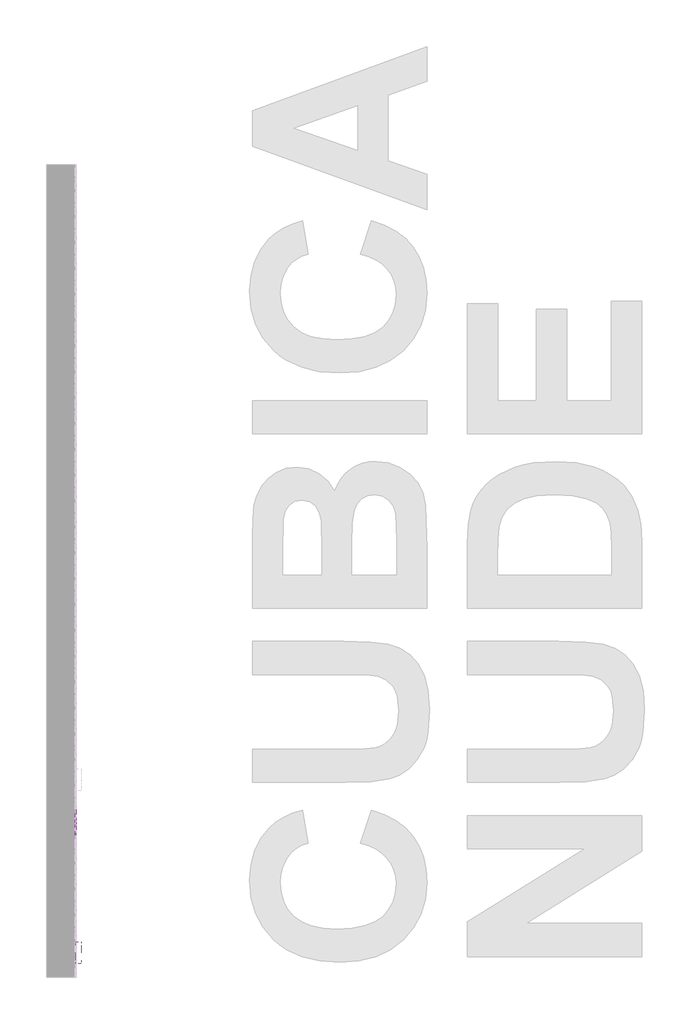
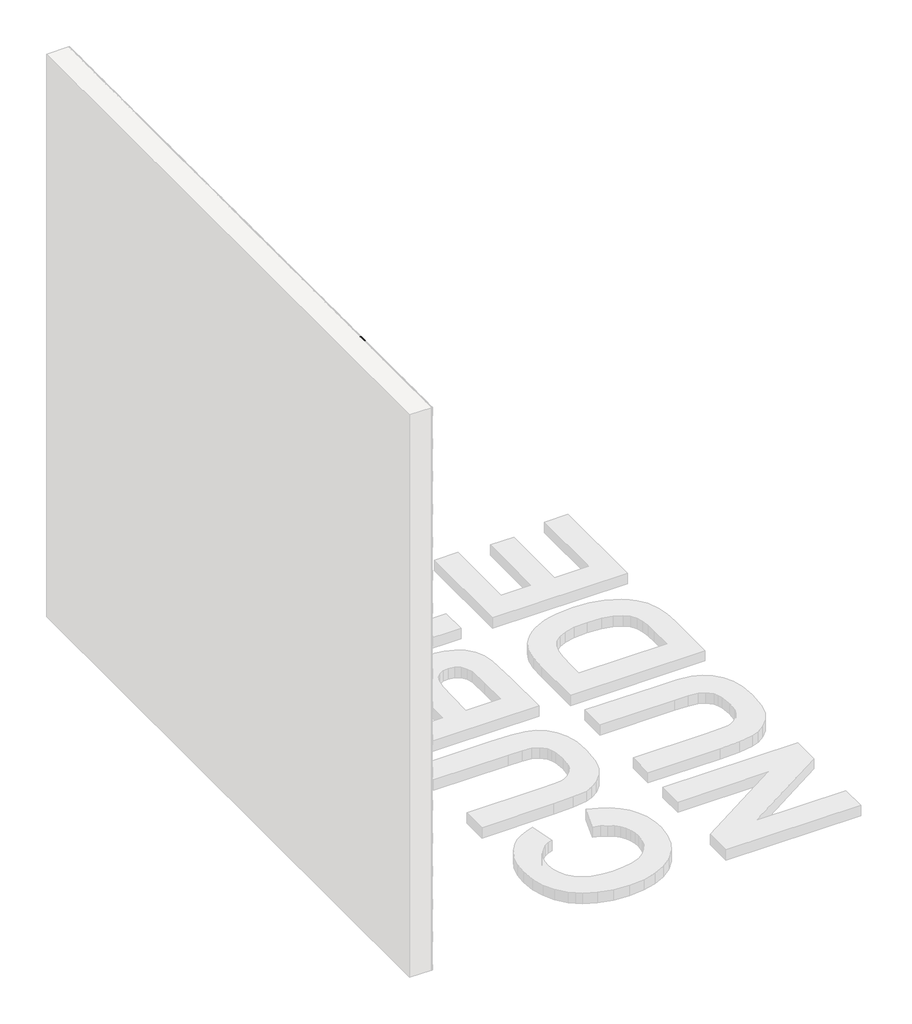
# One storey, part 54 of 121: 134 proxies.
"""IFC4 building model written with IfcOpenShell, lengths in millimetres."""

from ifc_helpers import new_model, si_unit, frame, origin, place, context, project, spatial, polyline, outline, extrude, transform, mapped, element, save
from components import generic_models_b2b2c5c1, generic_models_9bf73f6f, generic_models_5d175859, generic_models_95f85f1d, generic_models_b652511d

model = new_model("IFC4")

# Units and contexts
model_context = context("Model", 3, world=origin())
ifc_project = project(units=[si_unit("LENGTHUNIT", "METRE", prefix="MILLI")], contexts=[model_context])

# Site, building, storey
site = spatial("IfcSite", under=ifc_project)
building = spatial("IfcBuilding", under=site)
storey = spatial("IfcBuildingStorey", under=building, Name="PORTOBELLO - SHOWROOM", Elevation=0.0)

# Proxies
placement = place(None, origin())
generic_models_shape = generic_models_b2b2c5c1(model_context)
element("IfcBuildingElementProxy", 1, Name="PBSHOP - CUBICA NUDE 4,8X8,3 : CUBICA NUDE - POSIÇÃO 01", ObjectType="PBSHOP - CUBICA NUDE 4,8X8,3 : CUBICA NUDE - POSIÇÃO 01", at=placement, inside=storey, context=model_context, shape_type="MappedRepresentation", body=[
    mapped(generic_models_shape, transform((150369.5341846, 7032.4226303, 39.4221668), x_axis=(0.0, 1.0, 0.0), y_axis=(0.0, 0.0, 1.0), z_axis=(1.0, 0.0, 0.0))),
])
element("IfcBuildingElementProxy", 2, Name="PBSHOP - CUBICA NUDE 4,8X8,3 : CUBICA NUDE - POSIÇÃO 01", ObjectType="PBSHOP - CUBICA NUDE 4,8X8,3 : CUBICA NUDE - POSIÇÃO 01", at=placement, inside=storey, context=model_context, shape_type="MappedRepresentation", body=[
    mapped(generic_models_shape, transform((150369.5341846, 7123.2618995, 39.4221668), x_axis=(0.0, 1.0, 0.0), y_axis=(0.0, 0.0, 1.0), z_axis=(1.0, 0.0, 0.0))),
])
element("IfcBuildingElementProxy", 3, Name="PBSHOP - CUBICA NUDE 4,8X8,3 : CUBICA NUDE - POSIÇÃO 01", ObjectType="PBSHOP - CUBICA NUDE 4,8X8,3 : CUBICA NUDE - POSIÇÃO 01", at=placement, inside=storey, context=model_context, shape_type="MappedRepresentation", body=[
    mapped(generic_models_shape, transform((150369.5341846, 7214.1011688, 39.4221668), x_axis=(0.0, 1.0, 0.0), y_axis=(0.0, 0.0, 1.0), z_axis=(1.0, 0.0, 0.0))),
])
element("IfcBuildingElementProxy", 4, Name="PBSHOP - CUBICA NUDE 4,8X8,3 : CUBICA NUDE - POSIÇÃO 01", ObjectType="PBSHOP - CUBICA NUDE 4,8X8,3 : CUBICA NUDE - POSIÇÃO 01", at=placement, inside=storey, context=model_context, shape_type="MappedRepresentation", body=[
    mapped(generic_models_shape, transform((150369.5341846, 7304.940438, 39.4221668), x_axis=(0.0, 1.0, 0.0), y_axis=(0.0, 0.0, 1.0), z_axis=(1.0, 0.0, 0.0))),
])
element("IfcBuildingElementProxy", 5, Name="PBSHOP - CUBICA NUDE 4,8X8,3 : CUBICA NUDE - POSIÇÃO 01", ObjectType="PBSHOP - CUBICA NUDE 4,8X8,3 : CUBICA NUDE - POSIÇÃO 01", at=placement, inside=storey, context=model_context, shape_type="MappedRepresentation", body=[
    mapped(generic_models_shape, transform((150369.5341846, 7395.7797073, 39.4221668), x_axis=(0.0, 1.0, 0.0), y_axis=(0.0, 0.0, 1.0), z_axis=(1.0, 0.0, 0.0))),
])
element("IfcBuildingElementProxy", 6, Name="PBSHOP - CUBICA NUDE 4,8X8,3 : CUBICA NUDE - POSIÇÃO 01", ObjectType="PBSHOP - CUBICA NUDE 4,8X8,3 : CUBICA NUDE - POSIÇÃO 01", at=placement, inside=storey, context=model_context, shape_type="MappedRepresentation", body=[
    mapped(generic_models_shape, transform((150369.5341846, 7486.6189765, 39.4221668), x_axis=(0.0, 1.0, 0.0), y_axis=(0.0, 0.0, 1.0), z_axis=(1.0, 0.0, 0.0))),
])
element("IfcBuildingElementProxy", 7, Name="PBSHOP - CUBICA NUDE 4,8X8,3 : CUBICA NUDE - POSIÇÃO 01", ObjectType="PBSHOP - CUBICA NUDE 4,8X8,3 : CUBICA NUDE - POSIÇÃO 01", at=placement, inside=storey, context=model_context, shape_type="MappedRepresentation", body=[
    mapped(generic_models_shape, transform((150369.5341846, 7577.4582457, 39.4221668), x_axis=(0.0, 1.0, 0.0), y_axis=(0.0, 0.0, 1.0), z_axis=(1.0, 0.0, 0.0))),
])
element("IfcBuildingElementProxy", 8, Name="PBSHOP - CUBICA NUDE 4,8X8,3 : CUBICA NUDE - POSIÇÃO 01", ObjectType="PBSHOP - CUBICA NUDE 4,8X8,3 : CUBICA NUDE - POSIÇÃO 01", at=placement, inside=storey, context=model_context, shape_type="MappedRepresentation", body=[
    mapped(generic_models_shape, transform((150369.5341846, 7668.297515, 39.4221668), x_axis=(0.0, 1.0, 0.0), y_axis=(0.0, 0.0, 1.0), z_axis=(1.0, 0.0, 0.0))),
])
element("IfcBuildingElementProxy", 9, Name="PBSHOP - CUBICA NUDE 4,8X8,3 : CUBICA NUDE - POSIÇÃO 01", ObjectType="PBSHOP - CUBICA NUDE 4,8X8,3 : CUBICA NUDE - POSIÇÃO 01", at=placement, inside=storey, context=model_context, shape_type="MappedRepresentation", body=[
    mapped(generic_models_shape, transform((150369.5341846, 7759.1367842, 39.4221668), x_axis=(0.0, 1.0, 0.0), y_axis=(0.0, 0.0, 1.0), z_axis=(1.0, 0.0, 0.0))),
])
element("IfcBuildingElementProxy", 10, Name="PBSHOP - CUBICA NUDE 4,8X8,3 : CUBICA NUDE - POSIÇÃO 01", ObjectType="PBSHOP - CUBICA NUDE 4,8X8,3 : CUBICA NUDE - POSIÇÃO 01", at=placement, inside=storey, context=model_context, shape_type="MappedRepresentation", body=[
    mapped(generic_models_shape, transform((150369.5341846, 7849.9760535, 39.4221668), x_axis=(0.0, 1.0, 0.0), y_axis=(0.0, 0.0, 1.0), z_axis=(1.0, 0.0, 0.0))),
])
element("IfcBuildingElementProxy", 11, Name="PBSHOP - CUBICA NUDE 4,8X8,3 : CUBICA NUDE - POSIÇÃO 01", ObjectType="PBSHOP - CUBICA NUDE 4,8X8,3 : CUBICA NUDE - POSIÇÃO 01", at=placement, inside=storey, context=model_context, shape_type="MappedRepresentation", body=[
    mapped(generic_models_shape, transform((150369.5341846, 7940.8153227, 39.4221668), x_axis=(0.0, 1.0, 0.0), y_axis=(0.0, 0.0, 1.0), z_axis=(1.0, 0.0, 0.0))),
])
element("IfcBuildingElementProxy", 12, Name="PBSHOP - CUBICA NUDE 4,8X8,3 : CUBICA NUDE - POSIÇÃO 01", ObjectType="PBSHOP - CUBICA NUDE 4,8X8,3 : CUBICA NUDE - POSIÇÃO 01", at=placement, inside=storey, context=model_context, shape_type="MappedRepresentation", body=[
    mapped(generic_models_shape, transform((150369.5341846, 7077.8422649, 118.3568052), x_axis=(0.0, 1.0, 0.0), y_axis=(0.0, 0.0, 1.0), z_axis=(1.0, 0.0, 0.0))),
])
element("IfcBuildingElementProxy", 13, Name="PBSHOP - CUBICA NUDE 4,8X8,3 : CUBICA NUDE - POSIÇÃO 01", ObjectType="PBSHOP - CUBICA NUDE 4,8X8,3 : CUBICA NUDE - POSIÇÃO 01", at=placement, inside=storey, context=model_context, shape_type="MappedRepresentation", body=[
    mapped(generic_models_shape, transform((150369.5341846, 7168.6815341, 118.3568052), x_axis=(0.0, 1.0, 0.0), y_axis=(0.0, 0.0, 1.0), z_axis=(1.0, 0.0, 0.0))),
])
element("IfcBuildingElementProxy", 14, Name="PBSHOP - CUBICA NUDE 4,8X8,3 : CUBICA NUDE - POSIÇÃO 01", ObjectType="PBSHOP - CUBICA NUDE 4,8X8,3 : CUBICA NUDE - POSIÇÃO 01", at=placement, inside=storey, context=model_context, shape_type="MappedRepresentation", body=[
    mapped(generic_models_shape, transform((150369.5341846, 7259.5208034, 118.3568052), x_axis=(0.0, 1.0, 0.0), y_axis=(0.0, 0.0, 1.0), z_axis=(1.0, 0.0, 0.0))),
])
element("IfcBuildingElementProxy", 15, Name="PBSHOP - CUBICA NUDE 4,8X8,3 : CUBICA NUDE - POSIÇÃO 01", ObjectType="PBSHOP - CUBICA NUDE 4,8X8,3 : CUBICA NUDE - POSIÇÃO 01", at=placement, inside=storey, context=model_context, shape_type="MappedRepresentation", body=[
    mapped(generic_models_shape, transform((150369.5341846, 7350.3600726, 118.3568052), x_axis=(0.0, 1.0, 0.0), y_axis=(0.0, 0.0, 1.0), z_axis=(1.0, 0.0, 0.0))),
])
element("IfcBuildingElementProxy", 16, Name="PBSHOP - CUBICA NUDE 4,8X8,3 : CUBICA NUDE - POSIÇÃO 01", ObjectType="PBSHOP - CUBICA NUDE 4,8X8,3 : CUBICA NUDE - POSIÇÃO 01", at=placement, inside=storey, context=model_context, shape_type="MappedRepresentation", body=[
    mapped(generic_models_shape, transform((150369.5341846, 7441.1993419, 118.3568052), x_axis=(0.0, 1.0, 0.0), y_axis=(0.0, 0.0, 1.0), z_axis=(1.0, 0.0, 0.0))),
])
element("IfcBuildingElementProxy", 17, Name="PBSHOP - CUBICA NUDE 4,8X8,3 : CUBICA NUDE - POSIÇÃO 01", ObjectType="PBSHOP - CUBICA NUDE 4,8X8,3 : CUBICA NUDE - POSIÇÃO 01", at=placement, inside=storey, context=model_context, shape_type="MappedRepresentation", body=[
    mapped(generic_models_shape, transform((150369.5341846, 7532.0386111, 118.3568052), x_axis=(0.0, 1.0, 0.0), y_axis=(0.0, 0.0, 1.0), z_axis=(1.0, 0.0, 0.0))),
])
element("IfcBuildingElementProxy", 18, Name="PBSHOP - CUBICA NUDE 4,8X8,3 : CUBICA NUDE - POSIÇÃO 01", ObjectType="PBSHOP - CUBICA NUDE 4,8X8,3 : CUBICA NUDE - POSIÇÃO 01", at=placement, inside=storey, context=model_context, shape_type="MappedRepresentation", body=[
    mapped(generic_models_shape, transform((150369.5341846, 7622.8778804, 118.3568052), x_axis=(0.0, 1.0, 0.0), y_axis=(0.0, 0.0, 1.0), z_axis=(1.0, 0.0, 0.0))),
])
element("IfcBuildingElementProxy", 19, Name="PBSHOP - CUBICA NUDE 4,8X8,3 : CUBICA NUDE - POSIÇÃO 01", ObjectType="PBSHOP - CUBICA NUDE 4,8X8,3 : CUBICA NUDE - POSIÇÃO 01", at=placement, inside=storey, context=model_context, shape_type="MappedRepresentation", body=[
    mapped(generic_models_shape, transform((150369.5341846, 7713.7171496, 118.3568052), x_axis=(0.0, 1.0, 0.0), y_axis=(0.0, 0.0, 1.0), z_axis=(1.0, 0.0, 0.0))),
])
element("IfcBuildingElementProxy", 20, Name="PBSHOP - CUBICA NUDE 4,8X8,3 : CUBICA NUDE - POSIÇÃO 01", ObjectType="PBSHOP - CUBICA NUDE 4,8X8,3 : CUBICA NUDE - POSIÇÃO 01", at=placement, inside=storey, context=model_context, shape_type="MappedRepresentation", body=[
    mapped(generic_models_shape, transform((150369.5341846, 7804.5564189, 118.3568052), x_axis=(0.0, 1.0, 0.0), y_axis=(0.0, 0.0, 1.0), z_axis=(1.0, 0.0, 0.0))),
])
element("IfcBuildingElementProxy", 21, Name="PBSHOP - CUBICA NUDE 4,8X8,3 : CUBICA NUDE - POSIÇÃO 01", ObjectType="PBSHOP - CUBICA NUDE 4,8X8,3 : CUBICA NUDE - POSIÇÃO 01", at=placement, inside=storey, context=model_context, shape_type="MappedRepresentation", body=[
    mapped(generic_models_shape, transform((150369.5341846, 7895.3956881, 118.3568052), x_axis=(0.0, 1.0, 0.0), y_axis=(0.0, 0.0, 1.0), z_axis=(1.0, 0.0, 0.0))),
])
element("IfcBuildingElementProxy", 22, Name="PBSHOP - CUBICA NUDE 4,8X8,3 : CUBICA NUDE - POSIÇÃO 01", ObjectType="PBSHOP - CUBICA NUDE 4,8X8,3 : CUBICA NUDE - POSIÇÃO 01", at=placement, inside=storey, context=model_context, shape_type="MappedRepresentation", body=[
    mapped(generic_models_shape, transform((150369.5341846, 7986.2349573, 118.3568052), x_axis=(0.0, 1.0, 0.0), y_axis=(0.0, 0.0, 1.0), z_axis=(1.0, 0.0, 0.0))),
])
element("IfcBuildingElementProxy", 23, Name="PBSHOP - CUBICA NUDE 4,8X8,3 : CUBICA NUDE - POSIÇÃO 01", ObjectType="PBSHOP - CUBICA NUDE 4,8X8,3 : CUBICA NUDE - POSIÇÃO 01", at=placement, inside=storey, context=model_context, shape_type="MappedRepresentation", body=[
    mapped(generic_models_shape, transform((150369.5341846, 7032.4226303, 197.2914436), x_axis=(0.0, 1.0, 0.0), y_axis=(0.0, 0.0, 1.0), z_axis=(1.0, 0.0, 0.0))),
])
element("IfcBuildingElementProxy", 24, Name="PBSHOP - CUBICA NUDE 4,8X8,3 : CUBICA NUDE - POSIÇÃO 01", ObjectType="PBSHOP - CUBICA NUDE 4,8X8,3 : CUBICA NUDE - POSIÇÃO 01", at=placement, inside=storey, context=model_context, shape_type="MappedRepresentation", body=[
    mapped(generic_models_shape, transform((150369.5341846, 7123.2618995, 197.2914436), x_axis=(0.0, 1.0, 0.0), y_axis=(0.0, 0.0, 1.0), z_axis=(1.0, 0.0, 0.0))),
])
element("IfcBuildingElementProxy", 25, Name="PBSHOP - CUBICA NUDE 4,8X8,3 : CUBICA NUDE - POSIÇÃO 01", ObjectType="PBSHOP - CUBICA NUDE 4,8X8,3 : CUBICA NUDE - POSIÇÃO 01", at=placement, inside=storey, context=model_context, shape_type="MappedRepresentation", body=[
    mapped(generic_models_shape, transform((150369.5341846, 7214.1011688, 197.2914436), x_axis=(0.0, 1.0, 0.0), y_axis=(0.0, 0.0, 1.0), z_axis=(1.0, 0.0, 0.0))),
])
element("IfcBuildingElementProxy", 26, Name="PBSHOP - CUBICA NUDE 4,8X8,3 : CUBICA NUDE - POSIÇÃO 01", ObjectType="PBSHOP - CUBICA NUDE 4,8X8,3 : CUBICA NUDE - POSIÇÃO 01", at=placement, inside=storey, context=model_context, shape_type="MappedRepresentation", body=[
    mapped(generic_models_shape, transform((150369.5341846, 7304.940438, 197.2914436), x_axis=(0.0, 1.0, 0.0), y_axis=(0.0, 0.0, 1.0), z_axis=(1.0, 0.0, 0.0))),
])
element("IfcBuildingElementProxy", 27, Name="PBSHOP - CUBICA NUDE 4,8X8,3 : CUBICA NUDE - POSIÇÃO 01", ObjectType="PBSHOP - CUBICA NUDE 4,8X8,3 : CUBICA NUDE - POSIÇÃO 01", at=placement, inside=storey, context=model_context, shape_type="MappedRepresentation", body=[
    mapped(generic_models_shape, transform((150369.5341846, 7395.7797073, 197.2914436), x_axis=(0.0, 1.0, 0.0), y_axis=(0.0, 0.0, 1.0), z_axis=(1.0, 0.0, 0.0))),
])
element("IfcBuildingElementProxy", 28, Name="PBSHOP - CUBICA NUDE 4,8X8,3 : CUBICA NUDE - POSIÇÃO 01", ObjectType="PBSHOP - CUBICA NUDE 4,8X8,3 : CUBICA NUDE - POSIÇÃO 01", at=placement, inside=storey, context=model_context, shape_type="MappedRepresentation", body=[
    mapped(generic_models_shape, transform((150369.5341846, 7486.6189765, 197.2914436), x_axis=(0.0, 1.0, 0.0), y_axis=(0.0, 0.0, 1.0), z_axis=(1.0, 0.0, 0.0))),
])
element("IfcBuildingElementProxy", 29, Name="PBSHOP - CUBICA NUDE 4,8X8,3 : CUBICA NUDE - POSIÇÃO 01", ObjectType="PBSHOP - CUBICA NUDE 4,8X8,3 : CUBICA NUDE - POSIÇÃO 01", at=placement, inside=storey, context=model_context, shape_type="MappedRepresentation", body=[
    mapped(generic_models_shape, transform((150369.5341846, 7577.4582457, 197.2914436), x_axis=(0.0, 1.0, 0.0), y_axis=(0.0, 0.0, 1.0), z_axis=(1.0, 0.0, 0.0))),
])
element("IfcBuildingElementProxy", 30, Name="PBSHOP - CUBICA NUDE 4,8X8,3 : CUBICA NUDE - POSIÇÃO 01", ObjectType="PBSHOP - CUBICA NUDE 4,8X8,3 : CUBICA NUDE - POSIÇÃO 01", at=placement, inside=storey, context=model_context, shape_type="MappedRepresentation", body=[
    mapped(generic_models_shape, transform((150369.5341846, 7668.297515, 197.2914436), x_axis=(0.0, 1.0, 0.0), y_axis=(0.0, 0.0, 1.0), z_axis=(1.0, 0.0, 0.0))),
])
element("IfcBuildingElementProxy", 31, Name="PBSHOP - CUBICA NUDE 4,8X8,3 : CUBICA NUDE - POSIÇÃO 01", ObjectType="PBSHOP - CUBICA NUDE 4,8X8,3 : CUBICA NUDE - POSIÇÃO 01", at=placement, inside=storey, context=model_context, shape_type="MappedRepresentation", body=[
    mapped(generic_models_shape, transform((150369.5341846, 7759.1367842, 197.2914436), x_axis=(0.0, 1.0, 0.0), y_axis=(0.0, 0.0, 1.0), z_axis=(1.0, 0.0, 0.0))),
])
element("IfcBuildingElementProxy", 32, Name="PBSHOP - CUBICA NUDE 4,8X8,3 : CUBICA NUDE - POSIÇÃO 01", ObjectType="PBSHOP - CUBICA NUDE 4,8X8,3 : CUBICA NUDE - POSIÇÃO 01", at=placement, inside=storey, context=model_context, shape_type="MappedRepresentation", body=[
    mapped(generic_models_shape, transform((150369.5341846, 7849.9760535, 197.2914436), x_axis=(0.0, 1.0, 0.0), y_axis=(0.0, 0.0, 1.0), z_axis=(1.0, 0.0, 0.0))),
])
element("IfcBuildingElementProxy", 33, Name="PBSHOP - CUBICA NUDE 4,8X8,3 : CUBICA NUDE - POSIÇÃO 01", ObjectType="PBSHOP - CUBICA NUDE 4,8X8,3 : CUBICA NUDE - POSIÇÃO 01", at=placement, inside=storey, context=model_context, shape_type="MappedRepresentation", body=[
    mapped(generic_models_shape, transform((150369.5341846, 7940.8153227, 197.2914436), x_axis=(0.0, 1.0, 0.0), y_axis=(0.0, 0.0, 1.0), z_axis=(1.0, 0.0, 0.0))),
])
element("IfcBuildingElementProxy", 34, Name="PBSHOP - CUBICA NUDE 4,8X8,3 : CUBICA NUDE - POSIÇÃO 01", ObjectType="PBSHOP - CUBICA NUDE 4,8X8,3 : CUBICA NUDE - POSIÇÃO 01", at=placement, inside=storey, context=model_context, shape_type="MappedRepresentation", body=[
    mapped(generic_models_shape, transform((150369.5341846, 7077.8422649, 276.2260819), x_axis=(0.0, 1.0, 0.0), y_axis=(0.0, 0.0, 1.0), z_axis=(1.0, 0.0, 0.0))),
])
element("IfcBuildingElementProxy", 35, Name="PBSHOP - CUBICA NUDE 4,8X8,3 : CUBICA NUDE - POSIÇÃO 01", ObjectType="PBSHOP - CUBICA NUDE 4,8X8,3 : CUBICA NUDE - POSIÇÃO 01", at=placement, inside=storey, context=model_context, shape_type="MappedRepresentation", body=[
    mapped(generic_models_shape, transform((150369.5341846, 7168.6815341, 276.2260819), x_axis=(0.0, 1.0, 0.0), y_axis=(0.0, 0.0, 1.0), z_axis=(1.0, 0.0, 0.0))),
])
element("IfcBuildingElementProxy", 36, Name="PBSHOP - CUBICA NUDE 4,8X8,3 : CUBICA NUDE - POSIÇÃO 01", ObjectType="PBSHOP - CUBICA NUDE 4,8X8,3 : CUBICA NUDE - POSIÇÃO 01", at=placement, inside=storey, context=model_context, shape_type="MappedRepresentation", body=[
    mapped(generic_models_shape, transform((150369.5341846, 7259.5208034, 276.2260819), x_axis=(0.0, 1.0, 0.0), y_axis=(0.0, 0.0, 1.0), z_axis=(1.0, 0.0, 0.0))),
])
element("IfcBuildingElementProxy", 37, Name="PBSHOP - CUBICA NUDE 4,8X8,3 : CUBICA NUDE - POSIÇÃO 01", ObjectType="PBSHOP - CUBICA NUDE 4,8X8,3 : CUBICA NUDE - POSIÇÃO 01", at=placement, inside=storey, context=model_context, shape_type="MappedRepresentation", body=[
    mapped(generic_models_shape, transform((150369.5341846, 7350.3600726, 276.2260819), x_axis=(0.0, 1.0, 0.0), y_axis=(0.0, 0.0, 1.0), z_axis=(1.0, 0.0, 0.0))),
])
element("IfcBuildingElementProxy", 38, Name="PBSHOP - CUBICA NUDE 4,8X8,3 : CUBICA NUDE - POSIÇÃO 01", ObjectType="PBSHOP - CUBICA NUDE 4,8X8,3 : CUBICA NUDE - POSIÇÃO 01", at=placement, inside=storey, context=model_context, shape_type="MappedRepresentation", body=[
    mapped(generic_models_shape, transform((150369.5341846, 7441.1993419, 276.2260819), x_axis=(0.0, 1.0, 0.0), y_axis=(0.0, 0.0, 1.0), z_axis=(1.0, 0.0, 0.0))),
])
element("IfcBuildingElementProxy", 39, Name="PBSHOP - CUBICA NUDE 4,8X8,3 : CUBICA NUDE - POSIÇÃO 01", ObjectType="PBSHOP - CUBICA NUDE 4,8X8,3 : CUBICA NUDE - POSIÇÃO 01", at=placement, inside=storey, context=model_context, shape_type="MappedRepresentation", body=[
    mapped(generic_models_shape, transform((150369.5341846, 7532.0386111, 276.2260819), x_axis=(0.0, 1.0, 0.0), y_axis=(0.0, 0.0, 1.0), z_axis=(1.0, 0.0, 0.0))),
])
element("IfcBuildingElementProxy", 40, Name="PBSHOP - CUBICA NUDE 4,8X8,3 : CUBICA NUDE - POSIÇÃO 01", ObjectType="PBSHOP - CUBICA NUDE 4,8X8,3 : CUBICA NUDE - POSIÇÃO 01", at=placement, inside=storey, context=model_context, shape_type="MappedRepresentation", body=[
    mapped(generic_models_shape, transform((150369.5341846, 7622.8778804, 276.2260819), x_axis=(0.0, 1.0, 0.0), y_axis=(0.0, 0.0, 1.0), z_axis=(1.0, 0.0, 0.0))),
])
element("IfcBuildingElementProxy", 41, Name="PBSHOP - CUBICA NUDE 4,8X8,3 : CUBICA NUDE - POSIÇÃO 01", ObjectType="PBSHOP - CUBICA NUDE 4,8X8,3 : CUBICA NUDE - POSIÇÃO 01", at=placement, inside=storey, context=model_context, shape_type="MappedRepresentation", body=[
    mapped(generic_models_shape, transform((150369.5341846, 7713.7171496, 276.2260819), x_axis=(0.0, 1.0, 0.0), y_axis=(0.0, 0.0, 1.0), z_axis=(1.0, 0.0, 0.0))),
])
element("IfcBuildingElementProxy", 42, Name="PBSHOP - CUBICA NUDE 4,8X8,3 : CUBICA NUDE - POSIÇÃO 01", ObjectType="PBSHOP - CUBICA NUDE 4,8X8,3 : CUBICA NUDE - POSIÇÃO 01", at=placement, inside=storey, context=model_context, shape_type="MappedRepresentation", body=[
    mapped(generic_models_shape, transform((150369.5341846, 7804.5564189, 276.2260819), x_axis=(0.0, 1.0, 0.0), y_axis=(0.0, 0.0, 1.0), z_axis=(1.0, 0.0, 0.0))),
])
element("IfcBuildingElementProxy", 43, Name="PBSHOP - CUBICA NUDE 4,8X8,3 : CUBICA NUDE - POSIÇÃO 01", ObjectType="PBSHOP - CUBICA NUDE 4,8X8,3 : CUBICA NUDE - POSIÇÃO 01", at=placement, inside=storey, context=model_context, shape_type="MappedRepresentation", body=[
    mapped(generic_models_shape, transform((150369.5341846, 7895.3956881, 276.2260819), x_axis=(0.0, 1.0, 0.0), y_axis=(0.0, 0.0, 1.0), z_axis=(1.0, 0.0, 0.0))),
])
element("IfcBuildingElementProxy", 44, Name="PBSHOP - CUBICA NUDE 4,8X8,3 : CUBICA NUDE - POSIÇÃO 01", ObjectType="PBSHOP - CUBICA NUDE 4,8X8,3 : CUBICA NUDE - POSIÇÃO 01", at=placement, inside=storey, context=model_context, shape_type="MappedRepresentation", body=[
    mapped(generic_models_shape, transform((150369.5341846, 7986.2349573, 276.2260819), x_axis=(0.0, 1.0, 0.0), y_axis=(0.0, 0.0, 1.0), z_axis=(1.0, 0.0, 0.0))),
])
generic_models_2_shape = generic_models_9bf73f6f(model_context)
element("IfcBuildingElementProxy", 45, Name="PBSHOP - CUBICA NUDE 4,8X8,3 : CUBICA NUDE - POSIÇÃO 03", ObjectType="PBSHOP - CUBICA NUDE 4,8X8,3 : CUBICA NUDE - POSIÇÃO 03", at=placement, inside=storey, context=model_context, shape_type="MappedRepresentation", body=[
    mapped(generic_models_2_shape, transform((150369.5341846, 7055.1346068, 78.8482756), x_axis=(0.0, 1.0, 0.0), y_axis=(0.0, 0.0, 1.0), z_axis=(1.0, 0.0, 0.0))),
])
element("IfcBuildingElementProxy", 46, Name="PBSHOP - CUBICA NUDE 4,8X8,3 : CUBICA NUDE - POSIÇÃO 03", ObjectType="PBSHOP - CUBICA NUDE 4,8X8,3 : CUBICA NUDE - POSIÇÃO 03", at=placement, inside=storey, context=model_context, shape_type="MappedRepresentation", body=[
    mapped(generic_models_2_shape, transform((150369.5341846, 7145.973876, 78.8482756), x_axis=(0.0, 1.0, 0.0), y_axis=(0.0, 0.0, 1.0), z_axis=(1.0, 0.0, 0.0))),
])
element("IfcBuildingElementProxy", 47, Name="PBSHOP - CUBICA NUDE 4,8X8,3 : CUBICA NUDE - POSIÇÃO 03", ObjectType="PBSHOP - CUBICA NUDE 4,8X8,3 : CUBICA NUDE - POSIÇÃO 03", at=placement, inside=storey, context=model_context, shape_type="MappedRepresentation", body=[
    mapped(generic_models_2_shape, transform((150369.5341846, 7236.8131452, 78.8482756), x_axis=(0.0, 1.0, 0.0), y_axis=(0.0, 0.0, 1.0), z_axis=(1.0, 0.0, 0.0))),
])
element("IfcBuildingElementProxy", 48, Name="PBSHOP - CUBICA NUDE 4,8X8,3 : CUBICA NUDE - POSIÇÃO 03", ObjectType="PBSHOP - CUBICA NUDE 4,8X8,3 : CUBICA NUDE - POSIÇÃO 03", at=placement, inside=storey, context=model_context, shape_type="MappedRepresentation", body=[
    mapped(generic_models_2_shape, transform((150369.5341846, 7327.6524145, 78.8482756), x_axis=(0.0, 1.0, 0.0), y_axis=(0.0, 0.0, 1.0), z_axis=(1.0, 0.0, 0.0))),
])
element("IfcBuildingElementProxy", 49, Name="PBSHOP - CUBICA NUDE 4,8X8,3 : CUBICA NUDE - POSIÇÃO 03", ObjectType="PBSHOP - CUBICA NUDE 4,8X8,3 : CUBICA NUDE - POSIÇÃO 03", at=placement, inside=storey, context=model_context, shape_type="MappedRepresentation", body=[
    mapped(generic_models_2_shape, transform((150369.5341846, 7418.4916837, 78.8482756), x_axis=(0.0, 1.0, 0.0), y_axis=(0.0, 0.0, 1.0), z_axis=(1.0, 0.0, 0.0))),
])
element("IfcBuildingElementProxy", 50, Name="PBSHOP - CUBICA NUDE 4,8X8,3 : CUBICA NUDE - POSIÇÃO 03", ObjectType="PBSHOP - CUBICA NUDE 4,8X8,3 : CUBICA NUDE - POSIÇÃO 03", at=placement, inside=storey, context=model_context, shape_type="MappedRepresentation", body=[
    mapped(generic_models_2_shape, transform((150369.5341846, 7509.330953, 78.8482756), x_axis=(0.0, 1.0, 0.0), y_axis=(0.0, 0.0, 1.0), z_axis=(1.0, 0.0, 0.0))),
])
element("IfcBuildingElementProxy", 51, Name="PBSHOP - CUBICA NUDE 4,8X8,3 : CUBICA NUDE - POSIÇÃO 03", ObjectType="PBSHOP - CUBICA NUDE 4,8X8,3 : CUBICA NUDE - POSIÇÃO 03", at=placement, inside=storey, context=model_context, shape_type="MappedRepresentation", body=[
    mapped(generic_models_2_shape, transform((150369.5341846, 7600.1702222, 78.8482756), x_axis=(0.0, 1.0, 0.0), y_axis=(0.0, 0.0, 1.0), z_axis=(1.0, 0.0, 0.0))),
])
element("IfcBuildingElementProxy", 52, Name="PBSHOP - CUBICA NUDE 4,8X8,3 : CUBICA NUDE - POSIÇÃO 03", ObjectType="PBSHOP - CUBICA NUDE 4,8X8,3 : CUBICA NUDE - POSIÇÃO 03", at=placement, inside=storey, context=model_context, shape_type="MappedRepresentation", body=[
    mapped(generic_models_2_shape, transform((150369.5341846, 7691.0094915, 78.8482756), x_axis=(0.0, 1.0, 0.0), y_axis=(0.0, 0.0, 1.0), z_axis=(1.0, 0.0, 0.0))),
])
element("IfcBuildingElementProxy", 53, Name="PBSHOP - CUBICA NUDE 4,8X8,3 : CUBICA NUDE - POSIÇÃO 03", ObjectType="PBSHOP - CUBICA NUDE 4,8X8,3 : CUBICA NUDE - POSIÇÃO 03", at=placement, inside=storey, context=model_context, shape_type="MappedRepresentation", body=[
    mapped(generic_models_2_shape, transform((150369.5341846, 7781.8487607, 78.8482756), x_axis=(0.0, 1.0, 0.0), y_axis=(0.0, 0.0, 1.0), z_axis=(1.0, 0.0, 0.0))),
])
element("IfcBuildingElementProxy", 54, Name="PBSHOP - CUBICA NUDE 4,8X8,3 : CUBICA NUDE - POSIÇÃO 03", ObjectType="PBSHOP - CUBICA NUDE 4,8X8,3 : CUBICA NUDE - POSIÇÃO 03", at=placement, inside=storey, context=model_context, shape_type="MappedRepresentation", body=[
    mapped(generic_models_2_shape, transform((150369.5341846, 7872.6880299, 78.8482756), x_axis=(0.0, 1.0, 0.0), y_axis=(0.0, 0.0, 1.0), z_axis=(1.0, 0.0, 0.0))),
])
element("IfcBuildingElementProxy", 55, Name="PBSHOP - CUBICA NUDE 4,8X8,3 : CUBICA NUDE - POSIÇÃO 03", ObjectType="PBSHOP - CUBICA NUDE 4,8X8,3 : CUBICA NUDE - POSIÇÃO 03", at=placement, inside=storey, context=model_context, shape_type="MappedRepresentation", body=[
    mapped(generic_models_2_shape, transform((150369.5341846, 7963.5272992, 78.8482756), x_axis=(0.0, 1.0, 0.0), y_axis=(0.0, 0.0, 1.0), z_axis=(1.0, 0.0, 0.0))),
])
element("IfcBuildingElementProxy", 56, Name="PBSHOP - CUBICA NUDE 4,8X8,3 : CUBICA NUDE - POSIÇÃO 03", ObjectType="PBSHOP - CUBICA NUDE 4,8X8,3 : CUBICA NUDE - POSIÇÃO 03", at=placement, inside=storey, context=model_context, shape_type="MappedRepresentation", body=[
    mapped(generic_models_2_shape, transform((150369.5341846, 7009.7149721, 157.7829139), x_axis=(0.0, 1.0, 0.0), y_axis=(0.0, 0.0, 1.0), z_axis=(1.0, 0.0, 0.0))),
])
element("IfcBuildingElementProxy", 57, Name="PBSHOP - CUBICA NUDE 4,8X8,3 : CUBICA NUDE - POSIÇÃO 03", ObjectType="PBSHOP - CUBICA NUDE 4,8X8,3 : CUBICA NUDE - POSIÇÃO 03", at=placement, inside=storey, context=model_context, shape_type="MappedRepresentation", body=[
    mapped(generic_models_2_shape, transform((150369.5341846, 7100.5542414, 157.7829139), x_axis=(0.0, 1.0, 0.0), y_axis=(0.0, 0.0, 1.0), z_axis=(1.0, 0.0, 0.0))),
])
element("IfcBuildingElementProxy", 58, Name="PBSHOP - CUBICA NUDE 4,8X8,3 : CUBICA NUDE - POSIÇÃO 03", ObjectType="PBSHOP - CUBICA NUDE 4,8X8,3 : CUBICA NUDE - POSIÇÃO 03", at=placement, inside=storey, context=model_context, shape_type="MappedRepresentation", body=[
    mapped(generic_models_2_shape, transform((150369.5341846, 7191.3935106, 157.7829139), x_axis=(0.0, 1.0, 0.0), y_axis=(0.0, 0.0, 1.0), z_axis=(1.0, 0.0, 0.0))),
])
element("IfcBuildingElementProxy", 59, Name="PBSHOP - CUBICA NUDE 4,8X8,3 : CUBICA NUDE - POSIÇÃO 03", ObjectType="PBSHOP - CUBICA NUDE 4,8X8,3 : CUBICA NUDE - POSIÇÃO 03", at=placement, inside=storey, context=model_context, shape_type="MappedRepresentation", body=[
    mapped(generic_models_2_shape, transform((150369.5341846, 7282.2327799, 157.7829139), x_axis=(0.0, 1.0, 0.0), y_axis=(0.0, 0.0, 1.0), z_axis=(1.0, 0.0, 0.0))),
])
element("IfcBuildingElementProxy", 60, Name="PBSHOP - CUBICA NUDE 4,8X8,3 : CUBICA NUDE - POSIÇÃO 03", ObjectType="PBSHOP - CUBICA NUDE 4,8X8,3 : CUBICA NUDE - POSIÇÃO 03", at=placement, inside=storey, context=model_context, shape_type="MappedRepresentation", body=[
    mapped(generic_models_2_shape, transform((150369.5341846, 7373.0720491, 157.7829139), x_axis=(0.0, 1.0, 0.0), y_axis=(0.0, 0.0, 1.0), z_axis=(1.0, 0.0, 0.0))),
])
element("IfcBuildingElementProxy", 61, Name="PBSHOP - CUBICA NUDE 4,8X8,3 : CUBICA NUDE - POSIÇÃO 03", ObjectType="PBSHOP - CUBICA NUDE 4,8X8,3 : CUBICA NUDE - POSIÇÃO 03", at=placement, inside=storey, context=model_context, shape_type="MappedRepresentation", body=[
    mapped(generic_models_2_shape, transform((150369.5341846, 7463.9113184, 157.7829139), x_axis=(0.0, 1.0, 0.0), y_axis=(0.0, 0.0, 1.0), z_axis=(1.0, 0.0, 0.0))),
])
element("IfcBuildingElementProxy", 62, Name="PBSHOP - CUBICA NUDE 4,8X8,3 : CUBICA NUDE - POSIÇÃO 03", ObjectType="PBSHOP - CUBICA NUDE 4,8X8,3 : CUBICA NUDE - POSIÇÃO 03", at=placement, inside=storey, context=model_context, shape_type="MappedRepresentation", body=[
    mapped(generic_models_2_shape, transform((150369.5341846, 7554.7505876, 157.7829139), x_axis=(0.0, 1.0, 0.0), y_axis=(0.0, 0.0, 1.0), z_axis=(1.0, 0.0, 0.0))),
])
element("IfcBuildingElementProxy", 63, Name="PBSHOP - CUBICA NUDE 4,8X8,3 : CUBICA NUDE - POSIÇÃO 03", ObjectType="PBSHOP - CUBICA NUDE 4,8X8,3 : CUBICA NUDE - POSIÇÃO 03", at=placement, inside=storey, context=model_context, shape_type="MappedRepresentation", body=[
    mapped(generic_models_2_shape, transform((150369.5341846, 7645.5898568, 157.7829139), x_axis=(0.0, 1.0, 0.0), y_axis=(0.0, 0.0, 1.0), z_axis=(1.0, 0.0, 0.0))),
])
element("IfcBuildingElementProxy", 64, Name="PBSHOP - CUBICA NUDE 4,8X8,3 : CUBICA NUDE - POSIÇÃO 03", ObjectType="PBSHOP - CUBICA NUDE 4,8X8,3 : CUBICA NUDE - POSIÇÃO 03", at=placement, inside=storey, context=model_context, shape_type="MappedRepresentation", body=[
    mapped(generic_models_2_shape, transform((150369.5341846, 7736.4291261, 157.7829139), x_axis=(0.0, 1.0, 0.0), y_axis=(0.0, 0.0, 1.0), z_axis=(1.0, 0.0, 0.0))),
])
element("IfcBuildingElementProxy", 65, Name="PBSHOP - CUBICA NUDE 4,8X8,3 : CUBICA NUDE - POSIÇÃO 03", ObjectType="PBSHOP - CUBICA NUDE 4,8X8,3 : CUBICA NUDE - POSIÇÃO 03", at=placement, inside=storey, context=model_context, shape_type="MappedRepresentation", body=[
    mapped(generic_models_2_shape, transform((150369.5341846, 7827.2683953, 157.7829139), x_axis=(0.0, 1.0, 0.0), y_axis=(0.0, 0.0, 1.0), z_axis=(1.0, 0.0, 0.0))),
])
element("IfcBuildingElementProxy", 66, Name="PBSHOP - CUBICA NUDE 4,8X8,3 : CUBICA NUDE - POSIÇÃO 03", ObjectType="PBSHOP - CUBICA NUDE 4,8X8,3 : CUBICA NUDE - POSIÇÃO 03", at=placement, inside=storey, context=model_context, shape_type="MappedRepresentation", body=[
    mapped(generic_models_2_shape, transform((150369.5341846, 7918.1076646, 157.7829139), x_axis=(0.0, 1.0, 0.0), y_axis=(0.0, 0.0, 1.0), z_axis=(1.0, 0.0, 0.0))),
])
element("IfcBuildingElementProxy", 67, Name="PBSHOP - CUBICA NUDE 4,8X8,3 : CUBICA NUDE - POSIÇÃO 03", ObjectType="PBSHOP - CUBICA NUDE 4,8X8,3 : CUBICA NUDE - POSIÇÃO 03", at=placement, inside=storey, context=model_context, shape_type="MappedRepresentation", body=[
    mapped(generic_models_2_shape, transform((150369.5341846, 7055.1346068, 236.7175523), x_axis=(0.0, 1.0, 0.0), y_axis=(0.0, 0.0, 1.0), z_axis=(1.0, 0.0, 0.0))),
])
element("IfcBuildingElementProxy", 68, Name="PBSHOP - CUBICA NUDE 4,8X8,3 : CUBICA NUDE - POSIÇÃO 03", ObjectType="PBSHOP - CUBICA NUDE 4,8X8,3 : CUBICA NUDE - POSIÇÃO 03", at=placement, inside=storey, context=model_context, shape_type="MappedRepresentation", body=[
    mapped(generic_models_2_shape, transform((150369.5341846, 7145.973876, 236.7175523), x_axis=(0.0, 1.0, 0.0), y_axis=(0.0, 0.0, 1.0), z_axis=(1.0, 0.0, 0.0))),
])
element("IfcBuildingElementProxy", 69, Name="PBSHOP - CUBICA NUDE 4,8X8,3 : CUBICA NUDE - POSIÇÃO 03", ObjectType="PBSHOP - CUBICA NUDE 4,8X8,3 : CUBICA NUDE - POSIÇÃO 03", at=placement, inside=storey, context=model_context, shape_type="MappedRepresentation", body=[
    mapped(generic_models_2_shape, transform((150369.5341846, 7236.8131452, 236.7175523), x_axis=(0.0, 1.0, 0.0), y_axis=(0.0, 0.0, 1.0), z_axis=(1.0, 0.0, 0.0))),
])
element("IfcBuildingElementProxy", 70, Name="PBSHOP - CUBICA NUDE 4,8X8,3 : CUBICA NUDE - POSIÇÃO 03", ObjectType="PBSHOP - CUBICA NUDE 4,8X8,3 : CUBICA NUDE - POSIÇÃO 03", at=placement, inside=storey, context=model_context, shape_type="MappedRepresentation", body=[
    mapped(generic_models_2_shape, transform((150369.5341846, 7327.6524145, 236.7175523), x_axis=(0.0, 1.0, 0.0), y_axis=(0.0, 0.0, 1.0), z_axis=(1.0, 0.0, 0.0))),
])
element("IfcBuildingElementProxy", 71, Name="PBSHOP - CUBICA NUDE 4,8X8,3 : CUBICA NUDE - POSIÇÃO 03", ObjectType="PBSHOP - CUBICA NUDE 4,8X8,3 : CUBICA NUDE - POSIÇÃO 03", at=placement, inside=storey, context=model_context, shape_type="MappedRepresentation", body=[
    mapped(generic_models_2_shape, transform((150369.5341846, 7418.4916837, 236.7175523), x_axis=(0.0, 1.0, 0.0), y_axis=(0.0, 0.0, 1.0), z_axis=(1.0, 0.0, 0.0))),
])
element("IfcBuildingElementProxy", 72, Name="PBSHOP - CUBICA NUDE 4,8X8,3 : CUBICA NUDE - POSIÇÃO 03", ObjectType="PBSHOP - CUBICA NUDE 4,8X8,3 : CUBICA NUDE - POSIÇÃO 03", at=placement, inside=storey, context=model_context, shape_type="MappedRepresentation", body=[
    mapped(generic_models_2_shape, transform((150369.5341846, 7509.330953, 236.7175523), x_axis=(0.0, 1.0, 0.0), y_axis=(0.0, 0.0, 1.0), z_axis=(1.0, 0.0, 0.0))),
])
element("IfcBuildingElementProxy", 73, Name="PBSHOP - CUBICA NUDE 4,8X8,3 : CUBICA NUDE - POSIÇÃO 03", ObjectType="PBSHOP - CUBICA NUDE 4,8X8,3 : CUBICA NUDE - POSIÇÃO 03", at=placement, inside=storey, context=model_context, shape_type="MappedRepresentation", body=[
    mapped(generic_models_2_shape, transform((150369.5341846, 7600.1702222, 236.7175523), x_axis=(0.0, 1.0, 0.0), y_axis=(0.0, 0.0, 1.0), z_axis=(1.0, 0.0, 0.0))),
])
element("IfcBuildingElementProxy", 74, Name="PBSHOP - CUBICA NUDE 4,8X8,3 : CUBICA NUDE - POSIÇÃO 03", ObjectType="PBSHOP - CUBICA NUDE 4,8X8,3 : CUBICA NUDE - POSIÇÃO 03", at=placement, inside=storey, context=model_context, shape_type="MappedRepresentation", body=[
    mapped(generic_models_2_shape, transform((150369.5341846, 7691.0094915, 236.7175523), x_axis=(0.0, 1.0, 0.0), y_axis=(0.0, 0.0, 1.0), z_axis=(1.0, 0.0, 0.0))),
])
element("IfcBuildingElementProxy", 75, Name="PBSHOP - CUBICA NUDE 4,8X8,3 : CUBICA NUDE - POSIÇÃO 03", ObjectType="PBSHOP - CUBICA NUDE 4,8X8,3 : CUBICA NUDE - POSIÇÃO 03", at=placement, inside=storey, context=model_context, shape_type="MappedRepresentation", body=[
    mapped(generic_models_2_shape, transform((150369.5341846, 7781.8487607, 236.7175523), x_axis=(0.0, 1.0, 0.0), y_axis=(0.0, 0.0, 1.0), z_axis=(1.0, 0.0, 0.0))),
])
element("IfcBuildingElementProxy", 76, Name="PBSHOP - CUBICA NUDE 4,8X8,3 : CUBICA NUDE - POSIÇÃO 03", ObjectType="PBSHOP - CUBICA NUDE 4,8X8,3 : CUBICA NUDE - POSIÇÃO 03", at=placement, inside=storey, context=model_context, shape_type="MappedRepresentation", body=[
    mapped(generic_models_2_shape, transform((150369.5341846, 7872.6880299, 236.7175523), x_axis=(0.0, 1.0, 0.0), y_axis=(0.0, 0.0, 1.0), z_axis=(1.0, 0.0, 0.0))),
])
element("IfcBuildingElementProxy", 77, Name="PBSHOP - CUBICA NUDE 4,8X8,3 : CUBICA NUDE - POSIÇÃO 03", ObjectType="PBSHOP - CUBICA NUDE 4,8X8,3 : CUBICA NUDE - POSIÇÃO 03", at=placement, inside=storey, context=model_context, shape_type="MappedRepresentation", body=[
    mapped(generic_models_2_shape, transform((150369.5341846, 7963.5272992, 236.7175523), x_axis=(0.0, 1.0, 0.0), y_axis=(0.0, 0.0, 1.0), z_axis=(1.0, 0.0, 0.0))),
])
generic_models_3_shape = generic_models_5d175859(model_context)
element("IfcBuildingElementProxy", 78, Name="PBSHOP - CUBICA NUDE 4,8X8,3 : CUBICA NUDE - POSIÇÃO 01", ObjectType="PBSHOP - CUBICA NUDE 4,8X8,3 : CUBICA NUDE - POSIÇÃO 01", at=placement, inside=storey, context=model_context, shape_type="MappedRepresentation", body=[
    mapped(generic_models_3_shape, transform((150369.5341846, 7077.8465832, 39.4221668), x_axis=(0.0, -1.0, 0.0), y_axis=(0.0, 0.0, -1.0), z_axis=(1.0, 0.0, 0.0))),
])
element("IfcBuildingElementProxy", 79, Name="PBSHOP - CUBICA NUDE 4,8X8,3 : CUBICA NUDE - POSIÇÃO 01", ObjectType="PBSHOP - CUBICA NUDE 4,8X8,3 : CUBICA NUDE - POSIÇÃO 01", at=placement, inside=storey, context=model_context, shape_type="MappedRepresentation", body=[
    mapped(generic_models_3_shape, transform((150369.5341846, 7168.6858525, 39.4221668), x_axis=(0.0, -1.0, 0.0), y_axis=(0.0, 0.0, -1.0), z_axis=(1.0, 0.0, 0.0))),
])
element("IfcBuildingElementProxy", 80, Name="PBSHOP - CUBICA NUDE 4,8X8,3 : CUBICA NUDE - POSIÇÃO 01", ObjectType="PBSHOP - CUBICA NUDE 4,8X8,3 : CUBICA NUDE - POSIÇÃO 01", at=placement, inside=storey, context=model_context, shape_type="MappedRepresentation", body=[
    mapped(generic_models_3_shape, transform((150369.5341846, 7259.5251217, 39.4221668), x_axis=(0.0, -1.0, 0.0), y_axis=(0.0, 0.0, -1.0), z_axis=(1.0, 0.0, 0.0))),
])
element("IfcBuildingElementProxy", 81, Name="PBSHOP - CUBICA NUDE 4,8X8,3 : CUBICA NUDE - POSIÇÃO 01", ObjectType="PBSHOP - CUBICA NUDE 4,8X8,3 : CUBICA NUDE - POSIÇÃO 01", at=placement, inside=storey, context=model_context, shape_type="MappedRepresentation", body=[
    mapped(generic_models_3_shape, transform((150369.5341846, 7350.364391, 39.4221668), x_axis=(0.0, -1.0, 0.0), y_axis=(0.0, 0.0, -1.0), z_axis=(1.0, 0.0, 0.0))),
])
element("IfcBuildingElementProxy", 82, Name="PBSHOP - CUBICA NUDE 4,8X8,3 : CUBICA NUDE - POSIÇÃO 01", ObjectType="PBSHOP - CUBICA NUDE 4,8X8,3 : CUBICA NUDE - POSIÇÃO 01", at=placement, inside=storey, context=model_context, shape_type="MappedRepresentation", body=[
    mapped(generic_models_3_shape, transform((150369.5341846, 7441.2036602, 39.4221668), x_axis=(0.0, -1.0, 0.0), y_axis=(0.0, 0.0, -1.0), z_axis=(1.0, 0.0, 0.0))),
])
element("IfcBuildingElementProxy", 83, Name="PBSHOP - CUBICA NUDE 4,8X8,3 : CUBICA NUDE - POSIÇÃO 01", ObjectType="PBSHOP - CUBICA NUDE 4,8X8,3 : CUBICA NUDE - POSIÇÃO 01", at=placement, inside=storey, context=model_context, shape_type="MappedRepresentation", body=[
    mapped(generic_models_3_shape, transform((150369.5341846, 7532.0429295, 39.4221668), x_axis=(0.0, -1.0, 0.0), y_axis=(0.0, 0.0, -1.0), z_axis=(1.0, 0.0, 0.0))),
])
element("IfcBuildingElementProxy", 84, Name="PBSHOP - CUBICA NUDE 4,8X8,3 : CUBICA NUDE - POSIÇÃO 01", ObjectType="PBSHOP - CUBICA NUDE 4,8X8,3 : CUBICA NUDE - POSIÇÃO 01", at=placement, inside=storey, context=model_context, shape_type="MappedRepresentation", body=[
    mapped(generic_models_3_shape, transform((150369.5341846, 7622.8821987, 39.4221668), x_axis=(0.0, -1.0, 0.0), y_axis=(0.0, 0.0, -1.0), z_axis=(1.0, 0.0, 0.0))),
])
element("IfcBuildingElementProxy", 85, Name="PBSHOP - CUBICA NUDE 4,8X8,3 : CUBICA NUDE - POSIÇÃO 01", ObjectType="PBSHOP - CUBICA NUDE 4,8X8,3 : CUBICA NUDE - POSIÇÃO 01", at=placement, inside=storey, context=model_context, shape_type="MappedRepresentation", body=[
    mapped(generic_models_3_shape, transform((150369.5341846, 7713.7214679, 39.4221668), x_axis=(0.0, -1.0, 0.0), y_axis=(0.0, 0.0, -1.0), z_axis=(1.0, 0.0, 0.0))),
])
element("IfcBuildingElementProxy", 86, Name="PBSHOP - CUBICA NUDE 4,8X8,3 : CUBICA NUDE - POSIÇÃO 01", ObjectType="PBSHOP - CUBICA NUDE 4,8X8,3 : CUBICA NUDE - POSIÇÃO 01", at=placement, inside=storey, context=model_context, shape_type="MappedRepresentation", body=[
    mapped(generic_models_3_shape, transform((150369.5341846, 7804.5607372, 39.4221668), x_axis=(0.0, -1.0, 0.0), y_axis=(0.0, 0.0, -1.0), z_axis=(1.0, 0.0, 0.0))),
])
element("IfcBuildingElementProxy", 87, Name="PBSHOP - CUBICA NUDE 4,8X8,3 : CUBICA NUDE - POSIÇÃO 01", ObjectType="PBSHOP - CUBICA NUDE 4,8X8,3 : CUBICA NUDE - POSIÇÃO 01", at=placement, inside=storey, context=model_context, shape_type="MappedRepresentation", body=[
    mapped(generic_models_3_shape, transform((150369.5341846, 7895.4000064, 39.4221668), x_axis=(0.0, -1.0, 0.0), y_axis=(0.0, 0.0, -1.0), z_axis=(1.0, 0.0, 0.0))),
])
element("IfcBuildingElementProxy", 88, Name="PBSHOP - CUBICA NUDE 4,8X8,3 : CUBICA NUDE - POSIÇÃO 01", ObjectType="PBSHOP - CUBICA NUDE 4,8X8,3 : CUBICA NUDE - POSIÇÃO 01", at=placement, inside=storey, context=model_context, shape_type="MappedRepresentation", body=[
    mapped(generic_models_3_shape, transform((150369.5341846, 7986.2392757, 39.4221668), x_axis=(0.0, -1.0, 0.0), y_axis=(0.0, 0.0, -1.0), z_axis=(1.0, 0.0, 0.0))),
])
element("IfcBuildingElementProxy", 89, Name="PBSHOP - CUBICA NUDE 4,8X8,3 : CUBICA NUDE - POSIÇÃO 01", ObjectType="PBSHOP - CUBICA NUDE 4,8X8,3 : CUBICA NUDE - POSIÇÃO 01", at=placement, inside=storey, context=model_context, shape_type="MappedRepresentation", body=[
    mapped(generic_models_3_shape, transform((150369.5341846, 7032.4269486, 118.3568052), x_axis=(0.0, -1.0, 0.0), y_axis=(0.0, 0.0, -1.0), z_axis=(1.0, 0.0, 0.0))),
])
element("IfcBuildingElementProxy", 90, Name="PBSHOP - CUBICA NUDE 4,8X8,3 : CUBICA NUDE - POSIÇÃO 01", ObjectType="PBSHOP - CUBICA NUDE 4,8X8,3 : CUBICA NUDE - POSIÇÃO 01", at=placement, inside=storey, context=model_context, shape_type="MappedRepresentation", body=[
    mapped(generic_models_3_shape, transform((150369.5341846, 7123.2662179, 118.3568052), x_axis=(0.0, -1.0, 0.0), y_axis=(0.0, 0.0, -1.0), z_axis=(1.0, 0.0, 0.0))),
])
element("IfcBuildingElementProxy", 91, Name="PBSHOP - CUBICA NUDE 4,8X8,3 : CUBICA NUDE - POSIÇÃO 01", ObjectType="PBSHOP - CUBICA NUDE 4,8X8,3 : CUBICA NUDE - POSIÇÃO 01", at=placement, inside=storey, context=model_context, shape_type="MappedRepresentation", body=[
    mapped(generic_models_3_shape, transform((150369.5341846, 7214.1054871, 118.3568052), x_axis=(0.0, -1.0, 0.0), y_axis=(0.0, 0.0, -1.0), z_axis=(1.0, 0.0, 0.0))),
])
element("IfcBuildingElementProxy", 92, Name="PBSHOP - CUBICA NUDE 4,8X8,3 : CUBICA NUDE - POSIÇÃO 01", ObjectType="PBSHOP - CUBICA NUDE 4,8X8,3 : CUBICA NUDE - POSIÇÃO 01", at=placement, inside=storey, context=model_context, shape_type="MappedRepresentation", body=[
    mapped(generic_models_3_shape, transform((150369.5341846, 7304.9447563, 118.3568052), x_axis=(0.0, -1.0, 0.0), y_axis=(0.0, 0.0, -1.0), z_axis=(1.0, 0.0, 0.0))),
])
element("IfcBuildingElementProxy", 93, Name="PBSHOP - CUBICA NUDE 4,8X8,3 : CUBICA NUDE - POSIÇÃO 01", ObjectType="PBSHOP - CUBICA NUDE 4,8X8,3 : CUBICA NUDE - POSIÇÃO 01", at=placement, inside=storey, context=model_context, shape_type="MappedRepresentation", body=[
    mapped(generic_models_3_shape, transform((150369.5341846, 7395.7840256, 118.3568052), x_axis=(0.0, -1.0, 0.0), y_axis=(0.0, 0.0, -1.0), z_axis=(1.0, 0.0, 0.0))),
])
element("IfcBuildingElementProxy", 94, Name="PBSHOP - CUBICA NUDE 4,8X8,3 : CUBICA NUDE - POSIÇÃO 01", ObjectType="PBSHOP - CUBICA NUDE 4,8X8,3 : CUBICA NUDE - POSIÇÃO 01", at=placement, inside=storey, context=model_context, shape_type="MappedRepresentation", body=[
    mapped(generic_models_3_shape, transform((150369.5341846, 7486.6232948, 118.3568052), x_axis=(0.0, -1.0, 0.0), y_axis=(0.0, 0.0, -1.0), z_axis=(1.0, 0.0, 0.0))),
])
element("IfcBuildingElementProxy", 95, Name="PBSHOP - CUBICA NUDE 4,8X8,3 : CUBICA NUDE - POSIÇÃO 01", ObjectType="PBSHOP - CUBICA NUDE 4,8X8,3 : CUBICA NUDE - POSIÇÃO 01", at=placement, inside=storey, context=model_context, shape_type="MappedRepresentation", body=[
    mapped(generic_models_3_shape, transform((150369.5341846, 7577.4625641, 118.3568052), x_axis=(0.0, -1.0, 0.0), y_axis=(0.0, 0.0, -1.0), z_axis=(1.0, 0.0, 0.0))),
])
element("IfcBuildingElementProxy", 96, Name="PBSHOP - CUBICA NUDE 4,8X8,3 : CUBICA NUDE - POSIÇÃO 01", ObjectType="PBSHOP - CUBICA NUDE 4,8X8,3 : CUBICA NUDE - POSIÇÃO 01", at=placement, inside=storey, context=model_context, shape_type="MappedRepresentation", body=[
    mapped(generic_models_3_shape, transform((150369.5341846, 7668.3018333, 118.3568052), x_axis=(0.0, -1.0, 0.0), y_axis=(0.0, 0.0, -1.0), z_axis=(1.0, 0.0, 0.0))),
])
element("IfcBuildingElementProxy", 97, Name="PBSHOP - CUBICA NUDE 4,8X8,3 : CUBICA NUDE - POSIÇÃO 01", ObjectType="PBSHOP - CUBICA NUDE 4,8X8,3 : CUBICA NUDE - POSIÇÃO 01", at=placement, inside=storey, context=model_context, shape_type="MappedRepresentation", body=[
    mapped(generic_models_3_shape, transform((150369.5341846, 7759.1411026, 118.3568052), x_axis=(0.0, -1.0, 0.0), y_axis=(0.0, 0.0, -1.0), z_axis=(1.0, 0.0, 0.0))),
])
element("IfcBuildingElementProxy", 98, Name="PBSHOP - CUBICA NUDE 4,8X8,3 : CUBICA NUDE - POSIÇÃO 01", ObjectType="PBSHOP - CUBICA NUDE 4,8X8,3 : CUBICA NUDE - POSIÇÃO 01", at=placement, inside=storey, context=model_context, shape_type="MappedRepresentation", body=[
    mapped(generic_models_3_shape, transform((150369.5341846, 7849.9803718, 118.3568052), x_axis=(0.0, -1.0, 0.0), y_axis=(0.0, 0.0, -1.0), z_axis=(1.0, 0.0, 0.0))),
])
element("IfcBuildingElementProxy", 99, Name="PBSHOP - CUBICA NUDE 4,8X8,3 : CUBICA NUDE - POSIÇÃO 01", ObjectType="PBSHOP - CUBICA NUDE 4,8X8,3 : CUBICA NUDE - POSIÇÃO 01", at=placement, inside=storey, context=model_context, shape_type="MappedRepresentation", body=[
    mapped(generic_models_3_shape, transform((150369.5341846, 7940.819641, 118.3568052), x_axis=(0.0, -1.0, 0.0), y_axis=(0.0, 0.0, -1.0), z_axis=(1.0, 0.0, 0.0))),
])
element("IfcBuildingElementProxy", 100, Name="PBSHOP - CUBICA NUDE 4,8X8,3 : CUBICA NUDE - POSIÇÃO 01", ObjectType="PBSHOP - CUBICA NUDE 4,8X8,3 : CUBICA NUDE - POSIÇÃO 01", at=placement, inside=storey, context=model_context, shape_type="MappedRepresentation", body=[
    mapped(generic_models_3_shape, transform((150369.5341846, 7077.8465832, 197.2914436), x_axis=(0.0, -1.0, 0.0), y_axis=(0.0, 0.0, -1.0), z_axis=(1.0, 0.0, 0.0))),
])
element("IfcBuildingElementProxy", 101, Name="PBSHOP - CUBICA NUDE 4,8X8,3 : CUBICA NUDE - POSIÇÃO 01", ObjectType="PBSHOP - CUBICA NUDE 4,8X8,3 : CUBICA NUDE - POSIÇÃO 01", at=placement, inside=storey, context=model_context, shape_type="MappedRepresentation", body=[
    mapped(generic_models_3_shape, transform((150369.5341846, 7168.6858525, 197.2914436), x_axis=(0.0, -1.0, 0.0), y_axis=(0.0, 0.0, -1.0), z_axis=(1.0, 0.0, 0.0))),
])
element("IfcBuildingElementProxy", 102, Name="PBSHOP - CUBICA NUDE 4,8X8,3 : CUBICA NUDE - POSIÇÃO 01", ObjectType="PBSHOP - CUBICA NUDE 4,8X8,3 : CUBICA NUDE - POSIÇÃO 01", at=placement, inside=storey, context=model_context, shape_type="MappedRepresentation", body=[
    mapped(generic_models_3_shape, transform((150369.5341846, 7259.5251217, 197.2914436), x_axis=(0.0, -1.0, 0.0), y_axis=(0.0, 0.0, -1.0), z_axis=(1.0, 0.0, 0.0))),
])
element("IfcBuildingElementProxy", 103, Name="PBSHOP - CUBICA NUDE 4,8X8,3 : CUBICA NUDE - POSIÇÃO 01", ObjectType="PBSHOP - CUBICA NUDE 4,8X8,3 : CUBICA NUDE - POSIÇÃO 01", at=placement, inside=storey, context=model_context, shape_type="MappedRepresentation", body=[
    mapped(generic_models_3_shape, transform((150369.5341846, 7350.364391, 197.2914436), x_axis=(0.0, -1.0, 0.0), y_axis=(0.0, 0.0, -1.0), z_axis=(1.0, 0.0, 0.0))),
])
element("IfcBuildingElementProxy", 104, Name="PBSHOP - CUBICA NUDE 4,8X8,3 : CUBICA NUDE - POSIÇÃO 01", ObjectType="PBSHOP - CUBICA NUDE 4,8X8,3 : CUBICA NUDE - POSIÇÃO 01", at=placement, inside=storey, context=model_context, shape_type="MappedRepresentation", body=[
    mapped(generic_models_3_shape, transform((150369.5341846, 7441.2036602, 197.2914436), x_axis=(0.0, -1.0, 0.0), y_axis=(0.0, 0.0, -1.0), z_axis=(1.0, 0.0, 0.0))),
])
element("IfcBuildingElementProxy", 105, Name="PBSHOP - CUBICA NUDE 4,8X8,3 : CUBICA NUDE - POSIÇÃO 01", ObjectType="PBSHOP - CUBICA NUDE 4,8X8,3 : CUBICA NUDE - POSIÇÃO 01", at=placement, inside=storey, context=model_context, shape_type="MappedRepresentation", body=[
    mapped(generic_models_3_shape, transform((150369.5341846, 7532.0429295, 197.2914436), x_axis=(0.0, -1.0, 0.0), y_axis=(0.0, 0.0, -1.0), z_axis=(1.0, 0.0, 0.0))),
])
element("IfcBuildingElementProxy", 106, Name="PBSHOP - CUBICA NUDE 4,8X8,3 : CUBICA NUDE - POSIÇÃO 01", ObjectType="PBSHOP - CUBICA NUDE 4,8X8,3 : CUBICA NUDE - POSIÇÃO 01", at=placement, inside=storey, context=model_context, shape_type="MappedRepresentation", body=[
    mapped(generic_models_3_shape, transform((150369.5341846, 7622.8821987, 197.2914436), x_axis=(0.0, -1.0, 0.0), y_axis=(0.0, 0.0, -1.0), z_axis=(1.0, 0.0, 0.0))),
])
element("IfcBuildingElementProxy", 107, Name="PBSHOP - CUBICA NUDE 4,8X8,3 : CUBICA NUDE - POSIÇÃO 01", ObjectType="PBSHOP - CUBICA NUDE 4,8X8,3 : CUBICA NUDE - POSIÇÃO 01", at=placement, inside=storey, context=model_context, shape_type="MappedRepresentation", body=[
    mapped(generic_models_3_shape, transform((150369.5341846, 7713.7214679, 197.2914436), x_axis=(0.0, -1.0, 0.0), y_axis=(0.0, 0.0, -1.0), z_axis=(1.0, 0.0, 0.0))),
])
element("IfcBuildingElementProxy", 108, Name="PBSHOP - CUBICA NUDE 4,8X8,3 : CUBICA NUDE - POSIÇÃO 01", ObjectType="PBSHOP - CUBICA NUDE 4,8X8,3 : CUBICA NUDE - POSIÇÃO 01", at=placement, inside=storey, context=model_context, shape_type="MappedRepresentation", body=[
    mapped(generic_models_3_shape, transform((150369.5341846, 7804.5607372, 197.2914436), x_axis=(0.0, -1.0, 0.0), y_axis=(0.0, 0.0, -1.0), z_axis=(1.0, 0.0, 0.0))),
])
element("IfcBuildingElementProxy", 109, Name="PBSHOP - CUBICA NUDE 4,8X8,3 : CUBICA NUDE - POSIÇÃO 01", ObjectType="PBSHOP - CUBICA NUDE 4,8X8,3 : CUBICA NUDE - POSIÇÃO 01", at=placement, inside=storey, context=model_context, shape_type="MappedRepresentation", body=[
    mapped(generic_models_3_shape, transform((150369.5341846, 7895.4000064, 197.2914436), x_axis=(0.0, -1.0, 0.0), y_axis=(0.0, 0.0, -1.0), z_axis=(1.0, 0.0, 0.0))),
])
element("IfcBuildingElementProxy", 110, Name="PBSHOP - CUBICA NUDE 4,8X8,3 : CUBICA NUDE - POSIÇÃO 01", ObjectType="PBSHOP - CUBICA NUDE 4,8X8,3 : CUBICA NUDE - POSIÇÃO 01", at=placement, inside=storey, context=model_context, shape_type="MappedRepresentation", body=[
    mapped(generic_models_3_shape, transform((150369.5341846, 7986.2392757, 197.2914436), x_axis=(0.0, -1.0, 0.0), y_axis=(0.0, 0.0, -1.0), z_axis=(1.0, 0.0, 0.0))),
])
element("IfcBuildingElementProxy", 111, Name="PBSHOP - CUBICA NUDE 4,8X8,3 : CUBICA NUDE - POSIÇÃO 01", ObjectType="PBSHOP - CUBICA NUDE 4,8X8,3 : CUBICA NUDE - POSIÇÃO 01", at=placement, inside=storey, context=model_context, shape_type="MappedRepresentation", body=[
    mapped(generic_models_3_shape, transform((150369.5341846, 7032.4269486, 276.2260819), x_axis=(0.0, -1.0, 0.0), y_axis=(0.0, 0.0, -1.0), z_axis=(1.0, 0.0, 0.0))),
])
element("IfcBuildingElementProxy", 112, Name="PBSHOP - CUBICA NUDE 4,8X8,3 : CUBICA NUDE - POSIÇÃO 01", ObjectType="PBSHOP - CUBICA NUDE 4,8X8,3 : CUBICA NUDE - POSIÇÃO 01", at=placement, inside=storey, context=model_context, shape_type="MappedRepresentation", body=[
    mapped(generic_models_3_shape, transform((150369.5341846, 7123.2662179, 276.2260819), x_axis=(0.0, -1.0, 0.0), y_axis=(0.0, 0.0, -1.0), z_axis=(1.0, 0.0, 0.0))),
])
element("IfcBuildingElementProxy", 113, Name="PBSHOP - CUBICA NUDE 4,8X8,3 : CUBICA NUDE - POSIÇÃO 01", ObjectType="PBSHOP - CUBICA NUDE 4,8X8,3 : CUBICA NUDE - POSIÇÃO 01", at=placement, inside=storey, context=model_context, shape_type="MappedRepresentation", body=[
    mapped(generic_models_3_shape, transform((150369.5341846, 7214.1054871, 276.2260819), x_axis=(0.0, -1.0, 0.0), y_axis=(0.0, 0.0, -1.0), z_axis=(1.0, 0.0, 0.0))),
])
element("IfcBuildingElementProxy", 114, Name="PBSHOP - CUBICA NUDE 4,8X8,3 : CUBICA NUDE - POSIÇÃO 01", ObjectType="PBSHOP - CUBICA NUDE 4,8X8,3 : CUBICA NUDE - POSIÇÃO 01", at=placement, inside=storey, context=model_context, shape_type="MappedRepresentation", body=[
    mapped(generic_models_3_shape, transform((150369.5341846, 7304.9447563, 276.2260819), x_axis=(0.0, -1.0, 0.0), y_axis=(0.0, 0.0, -1.0), z_axis=(1.0, 0.0, 0.0))),
])
element("IfcBuildingElementProxy", 115, Name="PBSHOP - CUBICA NUDE 4,8X8,3 : CUBICA NUDE - POSIÇÃO 01", ObjectType="PBSHOP - CUBICA NUDE 4,8X8,3 : CUBICA NUDE - POSIÇÃO 01", at=placement, inside=storey, context=model_context, shape_type="MappedRepresentation", body=[
    mapped(generic_models_3_shape, transform((150369.5341846, 7395.7840256, 276.2260819), x_axis=(0.0, -1.0, 0.0), y_axis=(0.0, 0.0, -1.0), z_axis=(1.0, 0.0, 0.0))),
])
element("IfcBuildingElementProxy", 116, Name="PBSHOP - CUBICA NUDE 4,8X8,3 : CUBICA NUDE - POSIÇÃO 01", ObjectType="PBSHOP - CUBICA NUDE 4,8X8,3 : CUBICA NUDE - POSIÇÃO 01", at=placement, inside=storey, context=model_context, shape_type="MappedRepresentation", body=[
    mapped(generic_models_3_shape, transform((150369.5341846, 7486.6232948, 276.2260819), x_axis=(0.0, -1.0, 0.0), y_axis=(0.0, 0.0, -1.0), z_axis=(1.0, 0.0, 0.0))),
])
element("IfcBuildingElementProxy", 117, Name="PBSHOP - CUBICA NUDE 4,8X8,3 : CUBICA NUDE - POSIÇÃO 01", ObjectType="PBSHOP - CUBICA NUDE 4,8X8,3 : CUBICA NUDE - POSIÇÃO 01", at=placement, inside=storey, context=model_context, shape_type="MappedRepresentation", body=[
    mapped(generic_models_3_shape, transform((150369.5341846, 7577.4625641, 276.2260819), x_axis=(0.0, -1.0, 0.0), y_axis=(0.0, 0.0, -1.0), z_axis=(1.0, 0.0, 0.0))),
])
element("IfcBuildingElementProxy", 118, Name="PBSHOP - CUBICA NUDE 4,8X8,3 : CUBICA NUDE - POSIÇÃO 01", ObjectType="PBSHOP - CUBICA NUDE 4,8X8,3 : CUBICA NUDE - POSIÇÃO 01", at=placement, inside=storey, context=model_context, shape_type="MappedRepresentation", body=[
    mapped(generic_models_3_shape, transform((150369.5341846, 7668.3018333, 276.2260819), x_axis=(0.0, -1.0, 0.0), y_axis=(0.0, 0.0, -1.0), z_axis=(1.0, 0.0, 0.0))),
])
element("IfcBuildingElementProxy", 119, Name="PBSHOP - CUBICA NUDE 4,8X8,3 : CUBICA NUDE - POSIÇÃO 01", ObjectType="PBSHOP - CUBICA NUDE 4,8X8,3 : CUBICA NUDE - POSIÇÃO 01", at=placement, inside=storey, context=model_context, shape_type="MappedRepresentation", body=[
    mapped(generic_models_3_shape, transform((150369.5341846, 7759.1411026, 276.2260819), x_axis=(0.0, -1.0, 0.0), y_axis=(0.0, 0.0, -1.0), z_axis=(1.0, 0.0, 0.0))),
])
element("IfcBuildingElementProxy", 120, Name="PBSHOP - CUBICA NUDE 4,8X8,3 : CUBICA NUDE - POSIÇÃO 01", ObjectType="PBSHOP - CUBICA NUDE 4,8X8,3 : CUBICA NUDE - POSIÇÃO 01", at=placement, inside=storey, context=model_context, shape_type="MappedRepresentation", body=[
    mapped(generic_models_3_shape, transform((150369.5341846, 7849.9803718, 276.2260819), x_axis=(0.0, -1.0, 0.0), y_axis=(0.0, 0.0, -1.0), z_axis=(1.0, 0.0, 0.0))),
])
element("IfcBuildingElementProxy", 121, Name="PBSHOP - CUBICA NUDE 4,8X8,3 : CUBICA NUDE - POSIÇÃO 01", ObjectType="PBSHOP - CUBICA NUDE 4,8X8,3 : CUBICA NUDE - POSIÇÃO 01", at=placement, inside=storey, context=model_context, shape_type="MappedRepresentation", body=[
    mapped(generic_models_3_shape, transform((150369.5341846, 7940.819641, 276.2260819), x_axis=(0.0, -1.0, 0.0), y_axis=(0.0, 0.0, -1.0), z_axis=(1.0, 0.0, 0.0))),
])
generic_models_4_shape = generic_models_95f85f1d(model_context)
element("IfcBuildingElementProxy", 122, Name="PBSHOP - CUBICA NUDE 4,8X8,3 : CUBICA NUDE - POSIÇÃO 03", ObjectType="PBSHOP - CUBICA NUDE 4,8X8,3 : CUBICA NUDE - POSIÇÃO 03", at=placement, inside=storey, context=model_context, shape_type="MappedRepresentation", body=[
    mapped(generic_models_4_shape, transform((150369.5341846, 7009.7149721, -0.0863628), x_axis=(0.0, 1.0, 0.0), y_axis=(0.0, 0.0, 1.0), z_axis=(1.0, 0.0, 0.0))),
])
element("IfcBuildingElementProxy", 123, Name="PBSHOP - CUBICA NUDE 4,8X8,3 : CUBICA NUDE - POSIÇÃO 03", ObjectType="PBSHOP - CUBICA NUDE 4,8X8,3 : CUBICA NUDE - POSIÇÃO 03", at=placement, inside=storey, context=model_context, shape_type="MappedRepresentation", body=[
    mapped(generic_models_4_shape, transform((150369.5341846, 7100.5542414, -0.0863628), x_axis=(0.0, 1.0, 0.0), y_axis=(0.0, 0.0, 1.0), z_axis=(1.0, 0.0, 0.0))),
])
element("IfcBuildingElementProxy", 124, Name="PBSHOP - CUBICA NUDE 4,8X8,3 : CUBICA NUDE - POSIÇÃO 03", ObjectType="PBSHOP - CUBICA NUDE 4,8X8,3 : CUBICA NUDE - POSIÇÃO 03", at=placement, inside=storey, context=model_context, shape_type="MappedRepresentation", body=[
    mapped(generic_models_4_shape, transform((150369.5341846, 7191.3935106, -0.0863628), x_axis=(0.0, 1.0, 0.0), y_axis=(0.0, 0.0, 1.0), z_axis=(1.0, 0.0, 0.0))),
])
element("IfcBuildingElementProxy", 125, Name="PBSHOP - CUBICA NUDE 4,8X8,3 : CUBICA NUDE - POSIÇÃO 03", ObjectType="PBSHOP - CUBICA NUDE 4,8X8,3 : CUBICA NUDE - POSIÇÃO 03", at=placement, inside=storey, context=model_context, shape_type="MappedRepresentation", body=[
    mapped(generic_models_4_shape, transform((150369.5341846, 7282.2327799, -0.0863628), x_axis=(0.0, 1.0, 0.0), y_axis=(0.0, 0.0, 1.0), z_axis=(1.0, 0.0, 0.0))),
])
element("IfcBuildingElementProxy", 126, Name="PBSHOP - CUBICA NUDE 4,8X8,3 : CUBICA NUDE - POSIÇÃO 03", ObjectType="PBSHOP - CUBICA NUDE 4,8X8,3 : CUBICA NUDE - POSIÇÃO 03", at=placement, inside=storey, context=model_context, shape_type="MappedRepresentation", body=[
    mapped(generic_models_4_shape, transform((150369.5341846, 7373.0720491, -0.0863628), x_axis=(0.0, 1.0, 0.0), y_axis=(0.0, 0.0, 1.0), z_axis=(1.0, 0.0, 0.0))),
])
element("IfcBuildingElementProxy", 127, Name="PBSHOP - CUBICA NUDE 4,8X8,3 : CUBICA NUDE - POSIÇÃO 03", ObjectType="PBSHOP - CUBICA NUDE 4,8X8,3 : CUBICA NUDE - POSIÇÃO 03", at=placement, inside=storey, context=model_context, shape_type="MappedRepresentation", body=[
    mapped(generic_models_4_shape, transform((150369.5341846, 7463.9113184, -0.0863628), x_axis=(0.0, 1.0, 0.0), y_axis=(0.0, 0.0, 1.0), z_axis=(1.0, 0.0, 0.0))),
])
element("IfcBuildingElementProxy", 128, Name="PBSHOP - CUBICA NUDE 4,8X8,3 : CUBICA NUDE - POSIÇÃO 03", ObjectType="PBSHOP - CUBICA NUDE 4,8X8,3 : CUBICA NUDE - POSIÇÃO 03", at=placement, inside=storey, context=model_context, shape_type="MappedRepresentation", body=[
    mapped(generic_models_4_shape, transform((150369.5341846, 7554.7505876, -0.0863628), x_axis=(0.0, 1.0, 0.0), y_axis=(0.0, 0.0, 1.0), z_axis=(1.0, 0.0, 0.0))),
])
element("IfcBuildingElementProxy", 129, Name="PBSHOP - CUBICA NUDE 4,8X8,3 : CUBICA NUDE - POSIÇÃO 03", ObjectType="PBSHOP - CUBICA NUDE 4,8X8,3 : CUBICA NUDE - POSIÇÃO 03", at=placement, inside=storey, context=model_context, shape_type="MappedRepresentation", body=[
    mapped(generic_models_4_shape, transform((150369.5341846, 7645.5898568, -0.0863628), x_axis=(0.0, 1.0, 0.0), y_axis=(0.0, 0.0, 1.0), z_axis=(1.0, 0.0, 0.0))),
])
element("IfcBuildingElementProxy", 130, Name="PBSHOP - CUBICA NUDE 4,8X8,3 : CUBICA NUDE - POSIÇÃO 03", ObjectType="PBSHOP - CUBICA NUDE 4,8X8,3 : CUBICA NUDE - POSIÇÃO 03", at=placement, inside=storey, context=model_context, shape_type="MappedRepresentation", body=[
    mapped(generic_models_4_shape, transform((150369.5341846, 7736.4291261, -0.0863628), x_axis=(0.0, 1.0, 0.0), y_axis=(0.0, 0.0, 1.0), z_axis=(1.0, 0.0, 0.0))),
])
element("IfcBuildingElementProxy", 131, Name="PBSHOP - CUBICA NUDE 4,8X8,3 : CUBICA NUDE - POSIÇÃO 03", ObjectType="PBSHOP - CUBICA NUDE 4,8X8,3 : CUBICA NUDE - POSIÇÃO 03", at=placement, inside=storey, context=model_context, shape_type="MappedRepresentation", body=[
    mapped(generic_models_4_shape, transform((150369.5341846, 7827.2683953, -0.0863628), x_axis=(0.0, 1.0, 0.0), y_axis=(0.0, 0.0, 1.0), z_axis=(1.0, 0.0, 0.0))),
])
element("IfcBuildingElementProxy", 132, Name="PBSHOP - CUBICA NUDE 4,8X8,3 : CUBICA NUDE - POSIÇÃO 03", ObjectType="PBSHOP - CUBICA NUDE 4,8X8,3 : CUBICA NUDE - POSIÇÃO 03", at=placement, inside=storey, context=model_context, shape_type="MappedRepresentation", body=[
    mapped(generic_models_4_shape, transform((150369.5341846, 7918.1076646, -0.0863628), x_axis=(0.0, 1.0, 0.0), y_axis=(0.0, 0.0, 1.0), z_axis=(1.0, 0.0, 0.0))),
])
generic_models_5_shape = generic_models_b652511d(model_context)
element("IfcBuildingElementProxy", 133, Name="PBSHOP - CUBICA NUDE 4,8X8,3 : CUBICA NUDE - POSIÇÃO 03", ObjectType="PBSHOP - CUBICA NUDE 4,8X8,3 : CUBICA NUDE - POSIÇÃO 03", at=placement, inside=storey, context=model_context, shape_type="MappedRepresentation", body=[
    mapped(generic_models_5_shape, transform((150369.5341846, 6918.8757029, 2683.6913419), x_axis=(0.0, 1.0, 0.0), y_axis=(0.0, 0.0, 1.0), z_axis=(1.0, 0.0, 0.0))),
])
element("IfcBuildingElementProxy", 134, Name="10mm Arial", ObjectType="10mm Arial", at=placement, inside=storey, context=model_context, shape_type="SweptSolid", body=[
    extrude(outline(polyline([(6420.7152041, 2556.6361316), (6420.7152041, 2657.0924418), (6434.1551596, 2657.0924418), (6486.6396576, 2577.5073035), (6486.6396576, 2657.0924418), (6499.1966964, 2657.0924418), (6499.1966964, 2556.6361316), (6485.7567408, 2556.6361316), (6433.2722428, 2636.2457954), (6433.2722428, 2556.6361316), (6420.7152041, 2556.6361316)])), frame((150371.5341846, 0.0, 0.0), z_axis=(1.0, 0.0, 0.0), x_axis=(0.0, 1.0, 0.0)), (0.0, 0.0, 1.0), 20.0),
    extrude(outline(polyline([(6566.6907798, 2556.6361316), (6566.6907798, 2569.3157977), (6556.8560678, 2558.6288258), (6544.0292489, 2555.0665018), (6532.2202368, 2557.5680993), (6524.077782, 2563.8466187), (6520.3376484, 2573.0927195), (6519.6018844, 2584.7668415), (6519.6018844, 2630.4087344), (6532.1589231, 2630.4087344), (6532.1589231, 2590.6774789), (6532.9192126, 2577.8751855), (6537.8856195, 2570.35813), (6547.2420849, 2567.6235405), (6557.7267218, 2570.4194437), (6564.655166, 2578.034601), (6566.6907798, 2592.0263796), (6566.6907798, 2630.4087344), (6579.2478185, 2630.4087344), (6579.2478185, 2556.6361316), (6566.6907798, 2556.6361316)])), frame((150371.5341846, 0.0, 0.0), z_axis=(1.0, 0.0, 0.0), x_axis=(0.0, 1.0, 0.0)), (0.0, 0.0, 1.0), 20.0),
    extrude(outline(polyline([(6642.0330124, 2556.6361316), (6642.0330124, 2568.4819319), (6633.7250106, 2558.4203593), (6622.240961, 2555.0665018), (6606.6918154, 2559.9225441), (6595.7044064, 2573.4728643), (6591.8048573, 2593.4488566), (6595.3978381, 2613.4371117), (6606.1645178, 2627.1958983), (6622.1919101, 2631.9783642), (6633.7679302, 2628.5570617), (6642.0330124, 2619.6665801), (6642.0330124, 2657.0924418), (6654.5900511, 2657.0924418), (6654.5900511, 2556.6361316), (6642.0330124, 2556.6361316)]), holes=[polyline([(6604.3618961, 2593.4979075), (6605.7782417, 2582.1395509), (6610.0272788, 2574.0614755), (6616.2015649, 2569.2330243), (6623.3936579, 2567.6235405), (6630.5826853, 2569.1594479), (6636.6006216, 2573.7671699), (6640.6749147, 2581.5325456), (6642.0330124, 2592.5414144), (6640.6503892, 2604.577287), (6636.5025197, 2612.9220769), (6630.3312992, 2617.7965133), (6622.8786232, 2619.4213255), (6615.6129537, 2617.8608927), (6609.6593968, 2613.1795943), (6605.6862712, 2605.138307), (6604.3618961, 2593.4979075)])]), frame((150371.5341846, 0.0, 0.0), z_axis=(1.0, 0.0, 0.0), x_axis=(0.0, 1.0, 0.0)), (0.0, 0.0, 1.0), 20.0),
    extrude(outline(polyline([(6725.0762414, 2578.6109495), (6737.3880255, 2577.0413196), (6732.9519818, 2567.764562), (6725.8733191, 2560.8299864), (6716.3114529, 2556.5073729), (6704.4257987, 2555.0665018), (6689.6921248, 2557.5527709), (6678.355228, 2565.0115784), (6671.1263468, 2576.9585462), (6668.7167198, 2592.9092963), (6671.1508723, 2609.3965411), (6678.4533299, 2621.7267193), (6689.6369425, 2629.415453), (6703.7145602, 2631.9783642), (6717.3537852, 2629.4215844), (6728.2522893, 2621.7512448), (6735.3983971, 2609.445592), (6737.780433, 2592.9828727), (6737.7068566, 2589.5983584), (6681.2737585, 2589.5983584), (6683.447328, 2580.1989734), (6688.4965084, 2573.2889233), (6695.7836375, 2569.0398862), (6704.6710534, 2567.6235405), (6716.9828375, 2570.2477654), (6725.0762414, 2578.6109495)]), holes=[polyline([(6681.2737585, 2602.1553972), (6725.2233942, 2602.1553972), (6720.1956736, 2613.5352135), (6712.8748219, 2617.9497975), (6703.6655093, 2619.4213255), (6688.2022028, 2614.7246987), (6683.3369634, 2609.2340599), (6681.2737585, 2602.1553972)])]), frame((150371.5341846, 0.0, 0.0), z_axis=(1.0, 0.0, 0.0), x_axis=(0.0, 1.0, 0.0)), (0.0, 0.0, 1.0), 20.0),
])

save(model, "model.ifc")
